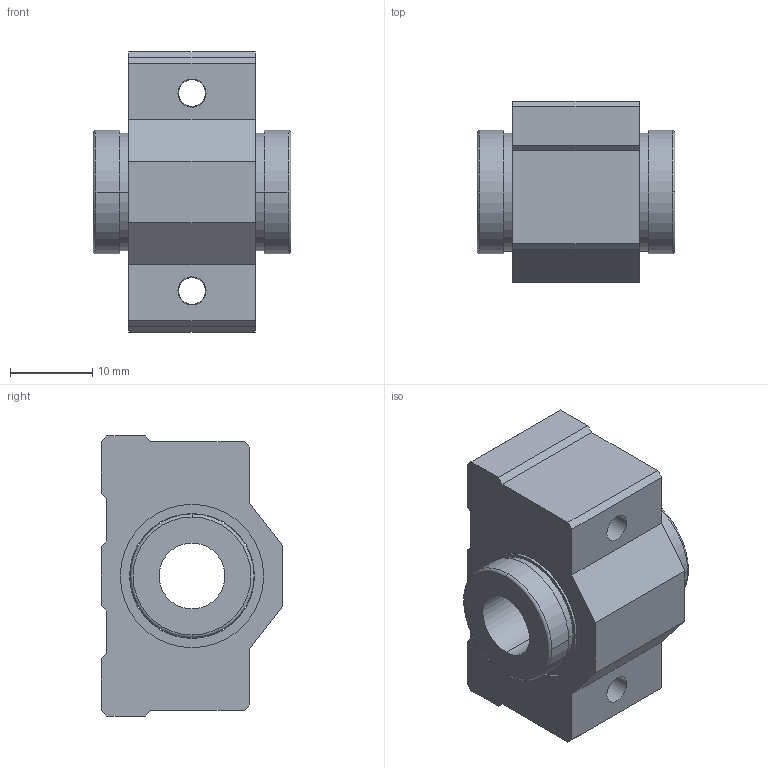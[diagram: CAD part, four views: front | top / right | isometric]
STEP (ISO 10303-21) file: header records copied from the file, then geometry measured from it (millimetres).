
FILE_DESCRIPTION(('FreeCAD Model'),'2;1');
FILE_NAME('Open CASCADE Shape Model','2021-05-03T08:53:13',('Author'),( ''),'Open CASCADE STEP processor 7.5','FreeCAD','Unknown');
FILE_SCHEMA(('AUTOMOTIVE_DESIGN { 1 0 10303 214 1 1 1 1 }'));
Length unit declared in the file: millimetre
Products named in the file (1): ball_bearing_sc8suu
Bounding box: 24 x 22 x 34 mm (x, y, z)
Volume: 9676.1 mm3; surface area: 5646.8 mm2
Topology: 2 solids, 2 shells, 70 faces, 534 edges, 1542 vertices
Faces by surface type: plane 36, cylinder 26, cone 4, torus 4
Entity records: 9779 total; most frequent: CARTESIAN_POINT 2777, DIRECTION 1203, LINE 608, VECTOR 608, GEOMETRIC_CURVE_SET 357, ORIENTED_EDGE 356, PCURVE 356, DEFINITIONAL_REPRESENTATION 356
